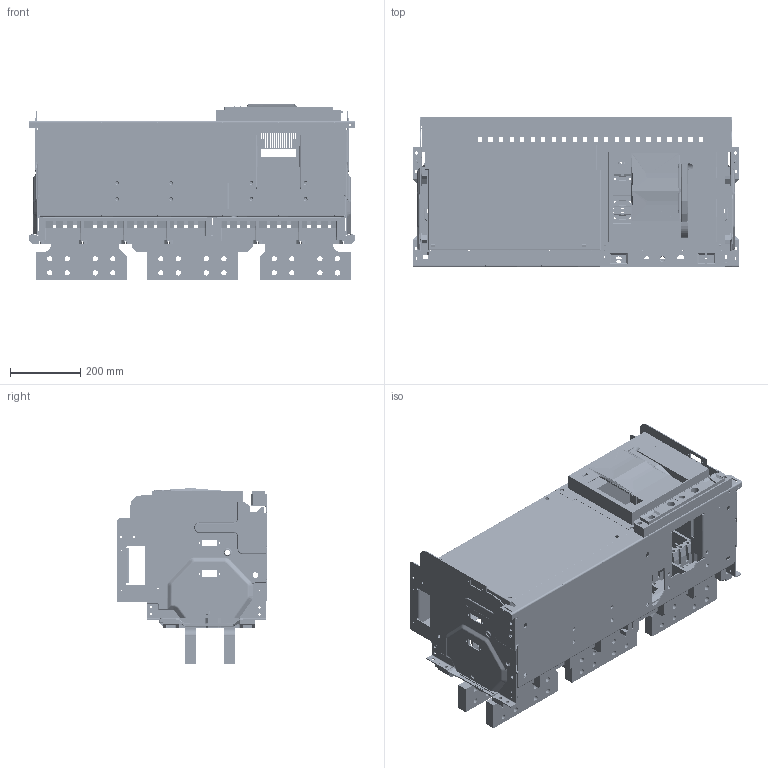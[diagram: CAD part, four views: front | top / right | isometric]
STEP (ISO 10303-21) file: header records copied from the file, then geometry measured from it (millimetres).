
FILE_DESCRIPTION((''),'2;1');
FILE_NAME('NA8G-6300-6300-3P_ASM','2020-05-13T09:19:28',('lcc'),(''),'CREO PARAMETRIC BY PTC INC, 2018020','CREO PARAMETRIC BY PTC INC, 2018020','');
FILE_SCHEMA(('CONFIG_CONTROL_DESIGN','SHAPE_APPEARANCE_LAYERS_GROUPS'));
Products named in the file (21): 8ZTD-024-458-2; 8-300-168; 8-050-234; 8-050-235; 5ZTD-300-085-2; 8-060-145-3; NA8G-6300-4P-ZHAO; 8-253-289; 8-253-290; DW45-3200-3P-DIJIA; DW45-3200-4P-DIJIA; NA8G-6300-6300-B; 8ZTD-160-063; 8ZTD-160-061; 5ZTD-580-057_ASM; NA8G-6300-6300-A; 5ZTD-580-056-1_ASM; NA8G-6300-6300-C; 5ZTD-580-056-2_ASM; 8-253-034; NA8G-6300-6300-3P_ASM
Assembly tree (35 placements, depth 3):
  NA8G-6300-6300-3P_ASM
    8ZTD-024-458-2
    8-300-168
    8-050-234
    8-050-235
    5ZTD-300-085-2
    8-060-145-3
    NA8G-6300-4P-ZHAO
    8-253-289
    8-253-290
    DW45-3200-3P-DIJIA
    DW45-3200-4P-DIJIA
    5ZTD-580-057_ASM  x2
      NA8G-6300-6300-B
      8ZTD-160-063
      8ZTD-160-061
    5ZTD-580-056-1_ASM  x2
      NA8G-6300-6300-A
      8ZTD-160-063
      8ZTD-160-061
    5ZTD-580-056-2_ASM  x2
      NA8G-6300-6300-C
      8ZTD-160-063
      8ZTD-160-061
    8-253-034
Bounding box: 930 x 429 x 501 mm (x, y, z)
Volume: 14883529.9 mm3; surface area: 5256598.5 mm2
Topology: 46 solids, 58 shells, 7650 faces, 21138 edges, 13064 vertices
Faces by surface type: plane 3965, cylinder 2972, sphere 373, torus 126, cone 116, bspline 98
Entity records: 286091 total; most frequent: CARTESIAN_POINT 48214, ORIENTED_EDGE 37777, DIRECTION 36472, PRESENTATION_STYLE_ASSIGNMENT 19255, STYLED_ITEM 18952, CURVE_STYLE 18922, EDGE_CURVE 18922, VECTOR 13308
